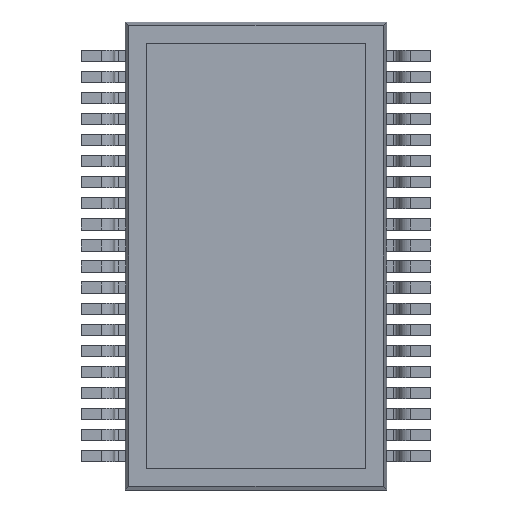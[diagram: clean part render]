
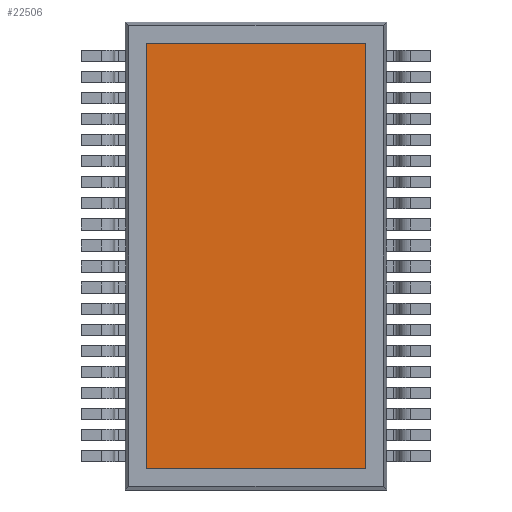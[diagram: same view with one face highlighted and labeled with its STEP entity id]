
A CAD part, front view. The second image highlights one B-rep face of the part: STEP entity #22506.
In plain terms, the highlighted planar face has unit normal (0, -1, 0).
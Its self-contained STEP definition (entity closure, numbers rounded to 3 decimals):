
#1018 = VECTOR ( 'NONE', #9972, 1000. ) ;
#1050 = LINE ( 'NONE', #9976, #1068 ) ;
#1052 = VECTOR ( 'NONE', #9975, 1000. ) ;
#1068 = VECTOR ( 'NONE', #9977, 1000. ) ;
#1286 = LINE ( 'NONE', #9961, #1316 ) ;
#1316 = VECTOR ( 'NONE', #9966, 1000. ) ;
#1318 = LINE ( 'NONE', #9967, #1018 ) ;
#1324 = LINE ( 'NONE', #9969, #1052 ) ;
#1797 = EDGE_LOOP ( 'NONE', ( #11904, #11905, #11854, #11864 ) ) ;
#2235 = VERTEX_POINT ( 'NONE', #21957 ) ;
#2236 = VERTEX_POINT ( 'NONE', #21956 ) ;
#2244 = VERTEX_POINT ( 'NONE', #21950 ) ;
#2253 = VERTEX_POINT ( 'NONE', #21942 ) ;
#9961 = CARTESIAN_POINT ( 'NONE',  ( 2.6, 0., 5.05 ) ) ;
#9966 = DIRECTION ( 'NONE',  ( 0., 0., 1. ) ) ;
#9967 = CARTESIAN_POINT ( 'NONE',  ( -2.6, 0., 5.05 ) ) ;
#9969 = CARTESIAN_POINT ( 'NONE',  ( -2.6, 0., 5.05 ) ) ;
#9972 = DIRECTION ( 'NONE',  ( -1., 0., 0. ) ) ;
#9975 = DIRECTION ( 'NONE',  ( 0., 0., -1. ) ) ;
#9976 = CARTESIAN_POINT ( 'NONE',  ( -2.6, 0., -5.05 ) ) ;
#9977 = DIRECTION ( 'NONE',  ( 1., 0., 0. ) ) ;
#11854 = ORIENTED_EDGE ( 'NONE', *, *, #19363, .T. ) ;
#11864 = ORIENTED_EDGE ( 'NONE', *, *, #19364, .T. ) ;
#11904 = ORIENTED_EDGE ( 'NONE', *, *, #19358, .T. ) ;
#11905 = ORIENTED_EDGE ( 'NONE', *, *, #19361, .T. ) ;
#19358 = EDGE_CURVE ( 'NONE', #2253, #2244, #1286, .T. ) ;
#19361 = EDGE_CURVE ( 'NONE', #2244, #2235, #1318, .T. ) ;
#19363 = EDGE_CURVE ( 'NONE', #2235, #2236, #1324, .T. ) ;
#19364 = EDGE_CURVE ( 'NONE', #2236, #2253, #1050, .T. ) ;
#19701 = FACE_OUTER_BOUND ( 'NONE', #1797, .T. ) ;
#20338 = PLANE ( 'NONE',  #25014 ) ;
#20346 = CARTESIAN_POINT ( 'NONE',  ( 0., 0., 0. ) ) ;
#20347 = DIRECTION ( 'NONE',  ( 0., 1., 0. ) ) ;
#20348 = DIRECTION ( 'NONE',  ( 0., 0., 1. ) ) ;
#21942 = CARTESIAN_POINT ( 'NONE',  ( 2.6, 0., -5.05 ) ) ;
#21950 = CARTESIAN_POINT ( 'NONE',  ( 2.6, 0., 5.05 ) ) ;
#21956 = CARTESIAN_POINT ( 'NONE',  ( -2.6, 0., -5.05 ) ) ;
#21957 = CARTESIAN_POINT ( 'NONE',  ( -2.6, 0., 5.05 ) ) ;
#22506 = ADVANCED_FACE ( 'NONE', ( #19701 ), #20338, .F. ) ;
#25014 = AXIS2_PLACEMENT_3D ( 'NONE', #20346, #20347, #20348 ) ;
